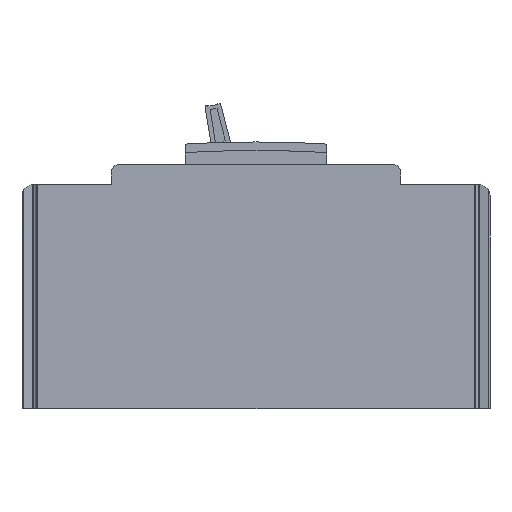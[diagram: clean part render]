
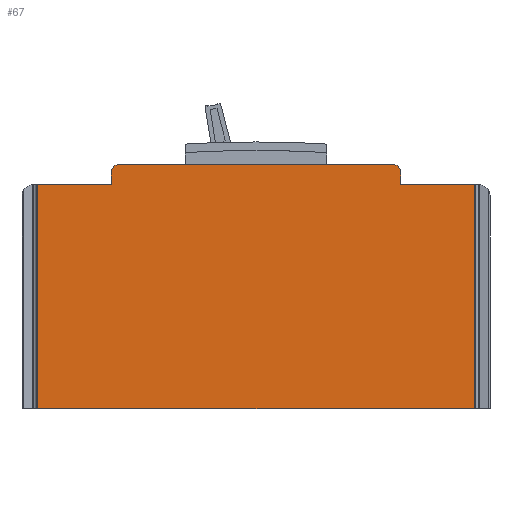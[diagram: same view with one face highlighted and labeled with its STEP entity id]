
A CAD part, left-side view. The second image highlights one B-rep face of the part: STEP entity #67.
In plain terms, the highlighted planar face has unit normal (-1, 0, 0).
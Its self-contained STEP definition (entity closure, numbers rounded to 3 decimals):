
#67 = ADVANCED_FACE ( 'NONE', ( #3482 ), #6411, .F. ) ;
#207 = EDGE_CURVE ( 'NONE', #7302, #1271, #3572, .T. ) ;
#248 = DIRECTION ( 'NONE',  ( 0., 0., -1. ) ) ;
#357 = ORIENTED_EDGE ( 'NONE', *, *, #8637, .F. ) ;
#862 = LINE ( 'NONE', #1219, #7852 ) ;
#985 = LINE ( 'NONE', #1006, #6236 ) ;
#1006 = CARTESIAN_POINT ( 'NONE',  ( -52.5, -77., 107.595 ) ) ;
#1020 = LINE ( 'NONE', #7005, #1664 ) ;
#1219 = CARTESIAN_POINT ( 'NONE',  ( -52.5, 0., 79. ) ) ;
#1244 = AXIS2_PLACEMENT_3D ( 'NONE', #4380, #7795, #5786 ) ;
#1271 = VERTEX_POINT ( 'NONE', #6094 ) ;
#1525 = DIRECTION ( 'NONE',  ( 0., 0., -1. ) ) ;
#1664 = VECTOR ( 'NONE', #2942, 1000. ) ;
#1699 = VERTEX_POINT ( 'NONE', #2797 ) ;
#1937 = VERTEX_POINT ( 'NONE', #2876 ) ;
#2010 = ORIENTED_EDGE ( 'NONE', *, *, #7387, .T. ) ;
#2252 = VECTOR ( 'NONE', #2567, 1000. ) ;
#2281 = EDGE_LOOP ( 'NONE', ( #8689, #4623, #4444, #3498, #8045, #2010, #5633, #357, #8644, #7938 ) ) ;
#2567 = DIRECTION ( 'NONE',  ( 0., 0., -1. ) ) ;
#2573 = CARTESIAN_POINT ( 'NONE',  ( -52.5, -48.5, 83.5 ) ) ;
#2621 = CARTESIAN_POINT ( 'NONE',  ( -52.5, 0., 79. ) ) ;
#2725 = EDGE_CURVE ( 'NONE', #5056, #6891, #7018, .T. ) ;
#2797 = CARTESIAN_POINT ( 'NONE',  ( -52.5, 48.5, 86. ) ) ;
#2876 = CARTESIAN_POINT ( 'NONE',  ( -52.5, 77., 79. ) ) ;
#2942 = DIRECTION ( 'NONE',  ( 0., 1., 0. ) ) ;
#2964 = EDGE_CURVE ( 'NONE', #5334, #6348, #862, .T. ) ;
#3242 = CARTESIAN_POINT ( 'NONE',  ( -52.5, -48.5, 86. ) ) ;
#3277 = LINE ( 'NONE', #3303, #6668 ) ;
#3303 = CARTESIAN_POINT ( 'NONE',  ( -52.5, -51., 0. ) ) ;
#3482 = FACE_OUTER_BOUND ( 'NONE', #2281, .T. ) ;
#3498 = ORIENTED_EDGE ( 'NONE', *, *, #2725, .T. ) ;
#3572 = CIRCLE ( 'NONE', #6244, 2.5 ) ;
#3742 = CARTESIAN_POINT ( 'NONE',  ( -52.5, -77., 0. ) ) ;
#3799 = EDGE_CURVE ( 'NONE', #6891, #1937, #6872, .T. ) ;
#3854 = EDGE_CURVE ( 'NONE', #6348, #1271, #3277, .T. ) ;
#3892 = DIRECTION ( 'NONE',  ( 0., 0., -1. ) ) ;
#3905 = CARTESIAN_POINT ( 'NONE',  ( -52.5, 51., 79. ) ) ;
#3993 = DIRECTION ( 'NONE',  ( 0., 0., 1. ) ) ;
#4046 = EDGE_CURVE ( 'NONE', #5056, #1699, #4122, .T. ) ;
#4122 = CIRCLE ( 'NONE', #7600, 2.5 ) ;
#4362 = CARTESIAN_POINT ( 'NONE',  ( -52.5, 77., 0. ) ) ;
#4380 = CARTESIAN_POINT ( 'NONE',  ( -52.5, 0., 0. ) ) ;
#4444 = ORIENTED_EDGE ( 'NONE', *, *, #4046, .F. ) ;
#4460 = CARTESIAN_POINT ( 'NONE',  ( -52.5, 0., 0. ) ) ;
#4550 = CARTESIAN_POINT ( 'NONE',  ( -52.5, 51., 0. ) ) ;
#4623 = ORIENTED_EDGE ( 'NONE', *, *, #5839, .T. ) ;
#4715 = LINE ( 'NONE', #4460, #6608 ) ;
#4754 = DIRECTION ( 'NONE',  ( 0., 1., 0. ) ) ;
#4987 = CARTESIAN_POINT ( 'NONE',  ( -52.5, -51., 79. ) ) ;
#5054 = VECTOR ( 'NONE', #7363, 1000. ) ;
#5056 = VERTEX_POINT ( 'NONE', #5776 ) ;
#5334 = VERTEX_POINT ( 'NONE', #7357 ) ;
#5574 = CARTESIAN_POINT ( 'NONE',  ( -52.5, 48.5, 83.5 ) ) ;
#5633 = ORIENTED_EDGE ( 'NONE', *, *, #8748, .F. ) ;
#5776 = CARTESIAN_POINT ( 'NONE',  ( -52.5, 51., 83.5 ) ) ;
#5786 = DIRECTION ( 'NONE',  ( 0., 0., -1. ) ) ;
#5839 = EDGE_CURVE ( 'NONE', #7302, #1699, #1020, .T. ) ;
#5922 = VERTEX_POINT ( 'NONE', #3742 ) ;
#6094 = CARTESIAN_POINT ( 'NONE',  ( -52.5, -51., 83.5 ) ) ;
#6236 = VECTOR ( 'NONE', #248, 1000. ) ;
#6244 = AXIS2_PLACEMENT_3D ( 'NONE', #2573, #7300, #3892 ) ;
#6342 = DIRECTION ( 'NONE',  ( 1., 0., 0. ) ) ;
#6348 = VERTEX_POINT ( 'NONE', #4987 ) ;
#6411 = PLANE ( 'NONE',  #1244 ) ;
#6608 = VECTOR ( 'NONE', #7203, 1000. ) ;
#6668 = VECTOR ( 'NONE', #3993, 1000. ) ;
#6799 = DIRECTION ( 'NONE',  ( 0., 0., -1. ) ) ;
#6833 = VECTOR ( 'NONE', #6799, 1000. ) ;
#6872 = LINE ( 'NONE', #2621, #5054 ) ;
#6891 = VERTEX_POINT ( 'NONE', #3905 ) ;
#7005 = CARTESIAN_POINT ( 'NONE',  ( -52.5, 0., 86. ) ) ;
#7018 = LINE ( 'NONE', #4550, #2252 ) ;
#7203 = DIRECTION ( 'NONE',  ( 0., 1., 0. ) ) ;
#7300 = DIRECTION ( 'NONE',  ( 1., 0., 0. ) ) ;
#7302 = VERTEX_POINT ( 'NONE', #3242 ) ;
#7357 = CARTESIAN_POINT ( 'NONE',  ( -52.5, -77., 79. ) ) ;
#7363 = DIRECTION ( 'NONE',  ( 0., 1., 0. ) ) ;
#7387 = EDGE_CURVE ( 'NONE', #1937, #7518, #7462, .T. ) ;
#7418 = CARTESIAN_POINT ( 'NONE',  ( -52.5, 77., 107.595 ) ) ;
#7462 = LINE ( 'NONE', #7418, #6833 ) ;
#7518 = VERTEX_POINT ( 'NONE', #4362 ) ;
#7600 = AXIS2_PLACEMENT_3D ( 'NONE', #5574, #6342, #1525 ) ;
#7795 = DIRECTION ( 'NONE',  ( 1., 0., 0. ) ) ;
#7852 = VECTOR ( 'NONE', #4754, 1000. ) ;
#7938 = ORIENTED_EDGE ( 'NONE', *, *, #3854, .T. ) ;
#8045 = ORIENTED_EDGE ( 'NONE', *, *, #3799, .T. ) ;
#8637 = EDGE_CURVE ( 'NONE', #5334, #5922, #985, .T. ) ;
#8644 = ORIENTED_EDGE ( 'NONE', *, *, #2964, .T. ) ;
#8689 = ORIENTED_EDGE ( 'NONE', *, *, #207, .F. ) ;
#8748 = EDGE_CURVE ( 'NONE', #5922, #7518, #4715, .T. ) ;
